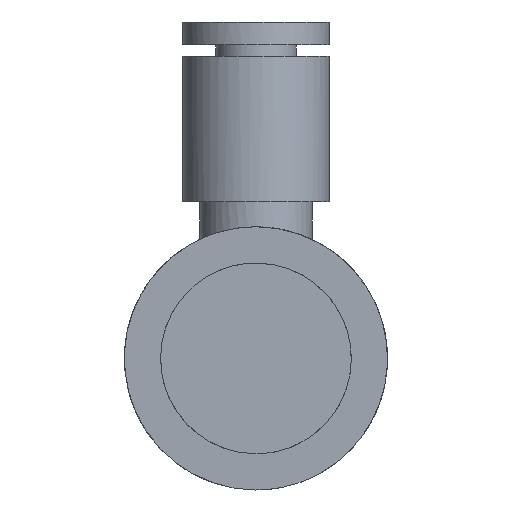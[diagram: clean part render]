
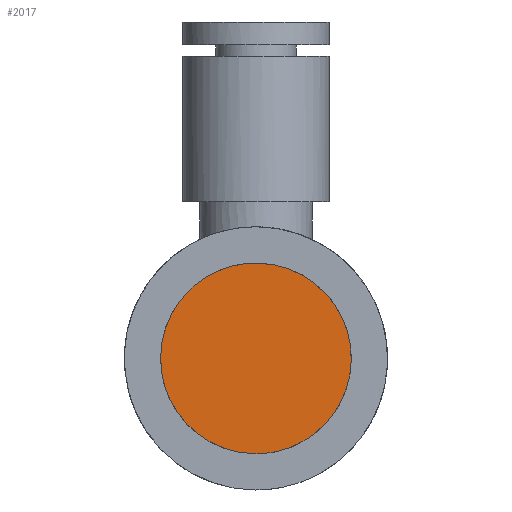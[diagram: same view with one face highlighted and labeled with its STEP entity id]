
A CAD part, front view. The second image highlights one B-rep face of the part: STEP entity #2017.
In plain terms, the highlighted planar face has unit normal (0, -1, 0).
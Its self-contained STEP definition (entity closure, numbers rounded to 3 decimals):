
#148 =( BOUNDED_CURVE ( )  B_SPLINE_CURVE ( 3, ( #504, #1477, #986, #1640 ),
 .UNSPECIFIED., .F., .T. ) 
 B_SPLINE_CURVE_WITH_KNOTS ( ( 4, 4 ),
 ( 0., 0.5 ),
 .UNSPECIFIED. ) 
 CURVE ( )  GEOMETRIC_REPRESENTATION_ITEM ( )  RATIONAL_B_SPLINE_CURVE ( ( 1., 0.333, 0.333, 1. ) ) 
 REPRESENTATION_ITEM ( '' )  );
#222 =( BOUNDED_CURVE ( )  B_SPLINE_CURVE ( 3, ( #1051, #1318, #1973, #529 ),
 .UNSPECIFIED., .F., .T. ) 
 B_SPLINE_CURVE_WITH_KNOTS ( ( 4, 4 ),
 ( 0.5, 1. ),
 .UNSPECIFIED. ) 
 CURVE ( )  GEOMETRIC_REPRESENTATION_ITEM ( )  RATIONAL_B_SPLINE_CURVE ( ( 1., 0.333, 0.333, 1. ) ) 
 REPRESENTATION_ITEM ( '' )  );
#333 = AXIS2_PLACEMENT_3D ( 'NONE', #1113, #744, #1924 ) ;
#500 = CARTESIAN_POINT ( 'NONE',  ( 0., -6.3, 8.331 ) ) ;
#504 = CARTESIAN_POINT ( 'NONE',  ( 0., -6.3, 8.331 ) ) ;
#529 = CARTESIAN_POINT ( 'NONE',  ( 0., -6.3, 8.331 ) ) ;
#744 = DIRECTION ( 'NONE',  ( 0., -1., 0. ) ) ;
#787 = EDGE_LOOP ( 'NONE', ( #917, #1729 ) ) ;
#917 = ORIENTED_EDGE ( 'NONE', *, *, #1351, .F. ) ;
#986 = CARTESIAN_POINT ( 'NONE',  ( 16.662, -6.3, -8.331 ) ) ;
#990 = EDGE_CURVE ( 'NONE', #1271, #1095, #222, .T. ) ;
#1051 = CARTESIAN_POINT ( 'NONE',  ( 0., -6.3, -8.331 ) ) ;
#1095 = VERTEX_POINT ( 'NONE', #500 ) ;
#1113 = CARTESIAN_POINT ( 'NONE',  ( -8.431, -6.3, 8.431 ) ) ;
#1222 = CARTESIAN_POINT ( 'NONE',  ( 0., -6.3, -8.331 ) ) ;
#1233 = FACE_OUTER_BOUND ( 'NONE', #787, .T. ) ;
#1271 = VERTEX_POINT ( 'NONE', #1222 ) ;
#1318 = CARTESIAN_POINT ( 'NONE',  ( -16.662, -6.3, -8.331 ) ) ;
#1351 = EDGE_CURVE ( 'NONE', #1095, #1271, #148, .T. ) ;
#1477 = CARTESIAN_POINT ( 'NONE',  ( 16.662, -6.3, 8.331 ) ) ;
#1601 = PLANE ( 'NONE',  #333 ) ;
#1640 = CARTESIAN_POINT ( 'NONE',  ( 0., -6.3, -8.331 ) ) ;
#1729 = ORIENTED_EDGE ( 'NONE', *, *, #990, .F. ) ;
#1924 = DIRECTION ( 'NONE',  ( 0., 0., -1. ) ) ;
#1973 = CARTESIAN_POINT ( 'NONE',  ( -16.662, -6.3, 8.331 ) ) ;
#2017 = ADVANCED_FACE ( 'NONE', ( #1233 ), #1601, .T. ) ;
